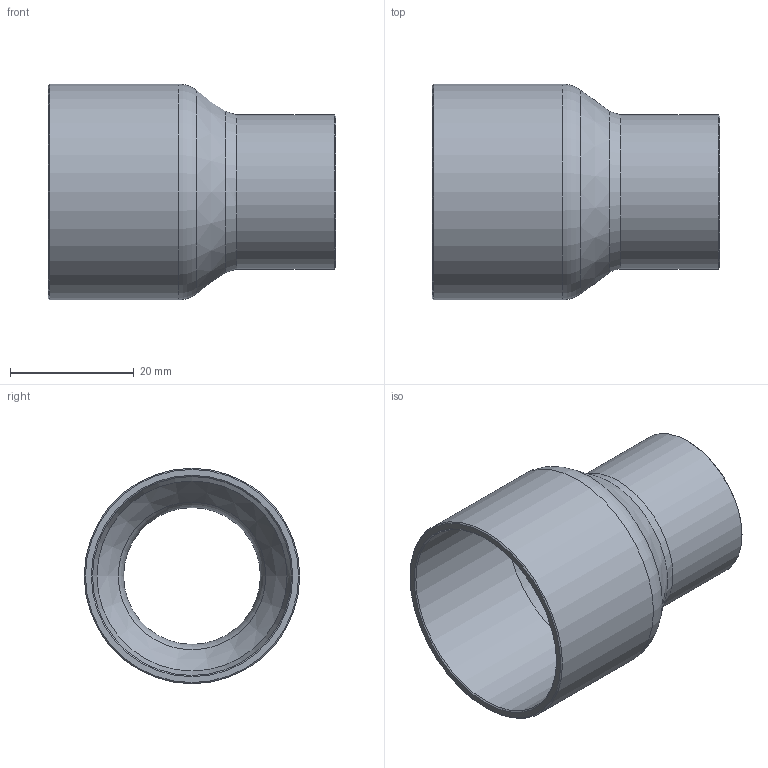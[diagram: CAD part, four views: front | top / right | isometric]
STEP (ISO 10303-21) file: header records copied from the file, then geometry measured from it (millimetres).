
FILE_DESCRIPTION((''),'2;1');
FILE_NAME('G:\SANHA-TERNAT\Technik\Deckel\UUU\F02\f005\152403222.stp','2013-12-09T13:41:02',('vdvijverd'),(''),'Autodesk Inventor 2009','Autodesk Inventor 2009','');
FILE_SCHEMA(('AUTOMOTIVE_DESIGN { 1 0 10303 214 1 1 1 1 }'));
Length unit declared in the file: millimetre
Products named in the file (1): 152403222
Bounding box: 46.4 x 34.85 x 34.85 mm (x, y, z)
Volume: 5973.4 mm3; surface area: 8938.9 mm2
Topology: 1 solids, 1 shells, 16 faces, 30 edges, 16 vertices
Faces by surface type: cone 6, cylinder 4, plane 2, bspline 2, torus 2
Full cylindrical faces by diameter (mm): 22.12 x1, 24.92 x1, 32.15 x1, 34.85 x1
Entity records: 434 total; most frequent: CARTESIAN_POINT 137, DIRECTION 62, ORIENTED_EDGE 32, EDGE_LOOP 32, AXIS2_PLACEMENT_3D 31, VERTEX_POINT 16, CIRCLE 16, EDGE_CURVE 16
